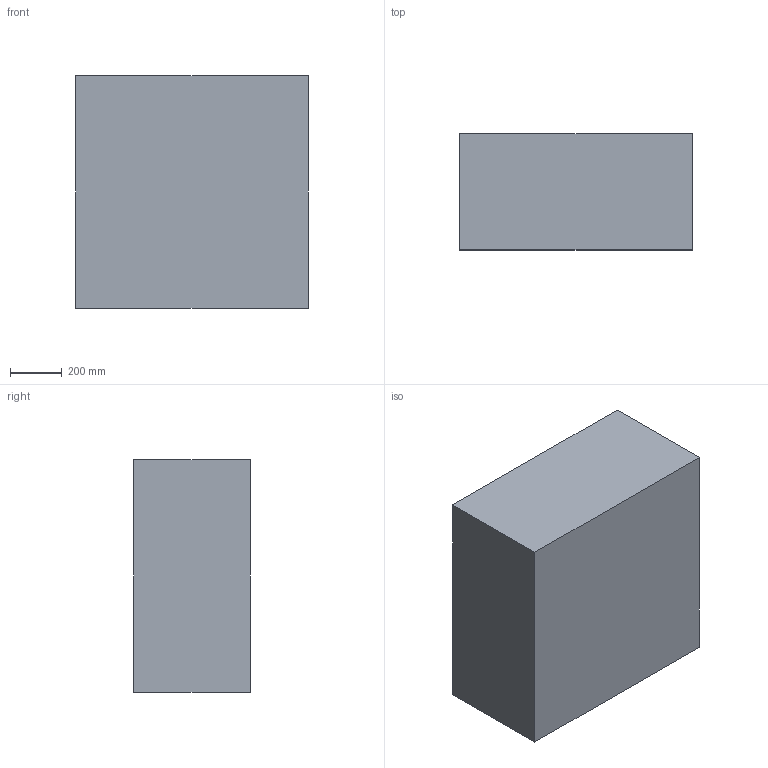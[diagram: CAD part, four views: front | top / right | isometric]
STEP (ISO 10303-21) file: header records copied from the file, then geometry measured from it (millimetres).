
FILE_DESCRIPTION (( 'STEP AP203' ), '1' );
FILE_NAME ('Riser 1.2.STEP', '2019-01-15T13:51:52', ( '' ), ( '' ), 'SwSTEP 2.0', 'SolidWorks 2019', '' );
FILE_SCHEMA (( 'CONFIG_CONTROL_DESIGN' ));
Length unit declared in the file: millimetre
Products named in the file (1): Riser 1.2
Bounding box: 900 x 450 x 900 mm (x, y, z)
Volume: 364500000 mm3; surface area: 3240000 mm2
Topology: 1 solids, 1 shells, 6 faces, 12 edges, 8 vertices
Faces by surface type: plane 6
Entity records: 233 total; most frequent: CARTESIAN_POINT 27, DIRECTION 26, ORIENTED_EDGE 24, LINE 12, VECTOR 12, EDGE_CURVE 12, PERSON_AND_ORGANIZATION 8, VERTEX_POINT 8
